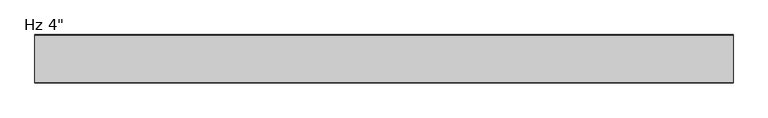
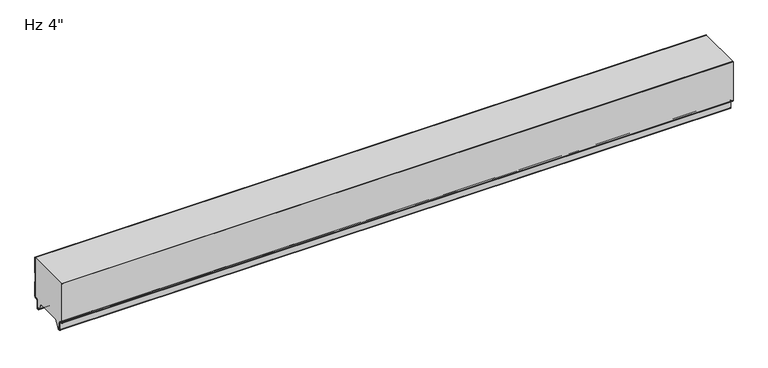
"""IFC4 building model written with IfcOpenShell, lengths in millimetres: plate geometry."""

from ifc_helpers import new_model, si_unit, frame, origin, place, context, project, spatial, polyline, circle_curve, source, transform, mapped, element, save
from ifc_brep_helpers import plane_surface, cylinder_surface, revolved_surface, advanced_brep


def plate_83f6242e(model_context):
    return source(origin(), model_context, "Body", "AdvancedBrep", [
        advanced_brep(
        [(-730.0, -1.0, 59.9218553), (-730.0, -1.0, 94.95), (-730.0, 0.0, 94.95), (-730.0, 0.0, 59.479416), (-730.0, -1.1911595, 58.4068912), (-730.0, -1.1911595, 39.5087751), (-730.0, 0.0, 38.4362503), (-730.0, 0.0, 5.8272193), (-730.0, -2.9772904, 2.8499526), (-730.0, -5.2691742, 2.8499526), (-730.0, -8.2464427, -0.1273159), (-730.0, -8.2464427, -15.7237419), (-730.0, -9.8343193, -17.3116185), (-730.0, -12.905868, -17.3116185), (-730.0, -14.4937445, -15.7237419), (-730.0, -14.4937445, -13.3687064), (-730.0, -13.4937445, -13.3687064), (-730.0, -13.4937445, -15.7237419), (-730.0, -12.905868, -16.3116185), (-730.0, -9.8343193, -16.3116185), (-730.0, -9.2464427, -15.7237419), (-730.0, -9.2464427, -0.1273159), (-730.0, -5.2691742, 3.8499526), (-730.0, -2.9772904, 3.8499526), (-730.0, -1.0000218, 5.82722), (-730.0, -1.0, 37.993811), (-730.0, -2.1911595, 39.0663358), (-730.0, -2.1911595, 58.8493305), (730.0, 0.0, 59.479416), (730.0, 0.0, 94.95), (730.0, -1.0, 94.95), (730.0, -1.0, 59.9218553), (730.0, -2.1911595, 58.8493305), (730.0, -2.1911595, 39.0663358), (730.0, -1.0, 37.993811), (730.0, -1.0, 5.82722), (730.0, -2.9772904, 3.8499526), (730.0, -5.2691742, 3.8499526), (730.0, -9.2464427, -0.1273159), (730.0, -9.2464427, -15.7237419), (730.0, -9.8343193, -16.3116185), (730.0, -12.905868, -16.3116185), (730.0, -13.4937445, -15.7237419), (730.0, -13.4937445, -13.3687064), (730.0, -14.4937445, -13.3687064), (730.0, -14.4937445, -15.7237419), (730.0, -12.905868, -17.3116185), (730.0, -9.8343193, -17.3116185), (730.0, -8.2464427, -15.7237419), (730.0, -8.2464427, -0.1273159), (730.0, -5.2691742, 2.8499526), (730.0, -2.9772904, 2.8499526), (730.0, -2.18e-05, 5.8272193), (730.0, 0.0, 38.4362503), (730.0, -1.1911595, 39.5087751), (730.0, -1.1911595, 58.4068912)],
        [
            (0, 1),
            (1, 2),
            (2, 3),
            (3, 4),
            (4, 5),
            (5, 6),
            (6, 7),
            (7, 8, circle_curve(frame((-730.0, -2.9772904, 5.8272211), z_axis=(-1.0, 0.0, 0.0), x_axis=(0.0, 1.0, 0.0)), 2.9772685)),
            (8, 9),
            (9, 10, circle_curve(frame((-730.0, -5.2691742, -0.1273159), z_axis=(1.0, 0.0, 0.0), x_axis=(0.0, 1.0, 0.0)), 2.9772685)),
            (10, 11),
            (11, 12, circle_curve(frame((-730.0, -9.8343193, -15.7237419), z_axis=(-1.0, 0.0, 0.0), x_axis=(0.0, 1.0, 0.0)), 1.5878765)),
            (12, 13),
            (13, 14, circle_curve(frame((-730.0, -12.905868, -15.7237419), z_axis=(-1.0, 0.0, 0.0), x_axis=(0.0, 1.0, 0.0)), 1.5878765)),
            (14, 15),
            (15, 16),
            (16, 17),
            (17, 18, circle_curve(frame((-730.0, -12.905868, -15.7237419), z_axis=(1.0, 0.0, 0.0), x_axis=(0.0, 1.0, 0.0)), 0.5878765)),
            (18, 19),
            (19, 20, circle_curve(frame((-730.0, -9.8343193, -15.7237419), z_axis=(1.0, 0.0, 0.0), x_axis=(0.0, 1.0, 0.0)), 0.5878765)),
            (20, 21),
            (21, 22, circle_curve(frame((-730.0, -5.2691742, -0.1273159), z_axis=(-1.0, 0.0, 0.0), x_axis=(0.0, 1.0, 0.0)), 3.9772685)),
            (22, 23),
            (23, 24, circle_curve(frame((-730.0, -2.9772904, 5.8272212), z_axis=(1.0, 0.0, 0.0), x_axis=(0.0, 1.0, 0.0)), 1.9772685)),
            (24, 25),
            (25, 26),
            (26, 27),
            (27, 0),
            (28, 29),
            (29, 30),
            (30, 31),
            (31, 32),
            (32, 33),
            (33, 34),
            (34, 35),
            (35, 36, circle_curve(frame((730.0, -2.9772904, 5.8272212), z_axis=(-1.0, 0.0, 0.0), x_axis=(0.0, 1.0, 0.0)), 1.9772685)),
            (36, 37),
            (37, 38, circle_curve(frame((730.0, -5.2691742, -0.1273159), z_axis=(1.0, 0.0, 0.0), x_axis=(0.0, 1.0, 0.0)), 3.9772685)),
            (38, 39),
            (39, 40, circle_curve(frame((730.0, -9.8343193, -15.7237419), z_axis=(-1.0, 0.0, 0.0), x_axis=(0.0, 1.0, 0.0)), 0.5878765)),
            (40, 41),
            (41, 42, circle_curve(frame((730.0, -12.905868, -15.7237419), z_axis=(-1.0, 0.0, 0.0), x_axis=(0.0, 1.0, 0.0)), 0.5878765)),
            (42, 43),
            (43, 44),
            (44, 45),
            (45, 46, circle_curve(frame((730.0, -12.905868, -15.7237419), z_axis=(1.0, 0.0, 0.0), x_axis=(0.0, 1.0, 0.0)), 1.5878765)),
            (46, 47),
            (47, 48, circle_curve(frame((730.0, -9.8343193, -15.7237419), z_axis=(1.0, 0.0, 0.0), x_axis=(0.0, 1.0, 0.0)), 1.5878765)),
            (48, 49),
            (49, 50, circle_curve(frame((730.0, -5.2691742, -0.1273159), z_axis=(-1.0, 0.0, 0.0), x_axis=(0.0, 1.0, 0.0)), 2.9772685)),
            (50, 51),
            (51, 52, circle_curve(frame((730.0, -2.9772904, 5.8272211), z_axis=(1.0, 0.0, 0.0), x_axis=(0.0, 1.0, 0.0)), 2.9772685)),
            (52, 53),
            (53, 54),
            (54, 55),
            (55, 28),
            (30, 1),
            (0, 31),
            (27, 32),
            (26, 33),
            (25, 34),
            (24, 35),
            (23, 36),
            (22, 37),
            (21, 38),
            (20, 39),
            (19, 40),
            (18, 41),
            (17, 42),
            (16, 43),
            (15, 44),
            (14, 45),
            (13, 46),
            (12, 47),
            (11, 48),
            (10, 49),
            (9, 50),
            (8, 51),
            (7, 52),
            (6, 53),
            (5, 54),
            (4, 55),
            (3, 28),
            (2, 29),
        ],
        [
            plane_surface(frame((-730.0, 0.0, 576.2625), z_axis=(-1.0, 0.0, 0.0), x_axis=(0.0, 1.0, 0.0))),
            plane_surface(frame((730.0, 0.0, 576.2625), z_axis=(1.0, 0.0, 0.0), x_axis=(0.0, 1.0, 0.0))),
            plane_surface(frame((-730.0, -1.0, 113.6164312), z_axis=(0.0, -1.0, 0.0), x_axis=(1.0, 0.0, 0.0))),
            plane_surface(frame((-730.0, -1.0, 59.9218553), z_axis=(0.0, -0.6691306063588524, 0.7431448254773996), x_axis=(1.0, 0.0, 0.0))),
            plane_surface(frame((-730.0, -2.1911595, 58.8493305), z_axis=(0.0, -1.0, 0.0), x_axis=(1.0, 0.0, 0.0))),
            plane_surface(frame((-730.0, -2.1911595, 39.0663358), z_axis=(0.0, -0.6691306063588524, -0.7431448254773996), x_axis=(1.0, 0.0, 0.0))),
            plane_surface(frame((-730.0, -1.0, 37.993811), z_axis=(0.0, -1.0, 0.0), x_axis=(1.0, 0.0, 0.0))),
            revolved_surface(polyline([(730.0, -1.0000218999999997, 5.8272212), (-730.0, -1.0000218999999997, 5.8272212)]), (-730.0, -2.9772904, 5.8272212), (1.0, 0.0, 0.0)),
            plane_surface(frame((-730.0, -2.9772904, 3.8499526), z_axis=(0.0, 0.0, 1.0), x_axis=(1.0, 0.0, 0.0))),
            cylinder_surface(frame((-730.0, -5.2691742, -0.1273159), z_axis=(-1.0, 0.0, 0.0), x_axis=(0.0, 1.0, 0.0)), 3.9772685),
            plane_surface(frame((-730.0, -9.2464427, -0.1273159), z_axis=(0.0, -1.0, 0.0), x_axis=(1.0, 0.0, 0.0))),
            revolved_surface(polyline([(730.0, -9.2464428, -15.7237419), (-730.0, -9.2464428, -15.7237419)]), (-730.0, -9.8343193, -15.7237419), (1.0, 0.0, 0.0)),
            plane_surface(frame((-730.0, -9.8343193, -16.3116185), z_axis=(0.0, 0.0, 1.0), x_axis=(1.0, 0.0, 0.0))),
            revolved_surface(polyline([(730.0, -12.3179915, -15.7237419), (-730.0, -12.3179915, -15.7237419)]), (-730.0, -12.905868, -15.7237419), (1.0, 0.0, 0.0)),
            plane_surface(frame((-730.0, -13.4937445, -15.7237419), z_axis=(0.0, 1.0, 0.0), x_axis=(1.0, 0.0, 0.0))),
            plane_surface(frame((-730.0, -13.4937445, -13.3687064), z_axis=(0.0, 0.0, 1.0), x_axis=(1.0, 0.0, 0.0))),
            plane_surface(frame((-730.0, -14.4937445, -13.3687064), z_axis=(0.0, -1.0, 0.0), x_axis=(1.0, 0.0, 0.0))),
            cylinder_surface(frame((-730.0, -12.905868, -15.7237419), z_axis=(-1.0, 0.0, 0.0), x_axis=(0.0, 1.0, 0.0)), 1.5878765),
            plane_surface(frame((-730.0, -12.905868, -17.3116185), z_axis=(0.0, 0.0, -1.0), x_axis=(1.0, 0.0, 0.0))),
            cylinder_surface(frame((-730.0, -9.8343193, -15.7237419), z_axis=(-1.0, 0.0, 0.0), x_axis=(0.0, 1.0, 0.0)), 1.5878765),
            plane_surface(frame((-730.0, -8.2464427, -15.7237419), z_axis=(0.0, 1.0, 0.0), x_axis=(1.0, 0.0, 0.0))),
            revolved_surface(polyline([(730.0, -2.2919057, -0.1273159), (-730.0, -2.2919057, -0.1273159)]), (-730.0, -5.2691742, -0.1273159), (1.0, 0.0, 0.0)),
            plane_surface(frame((-730.0, -5.2691742, 2.8499526), z_axis=(0.0, 0.0, -1.0), x_axis=(1.0, 0.0, 0.0))),
            cylinder_surface(frame((-730.0, -2.9772904, 5.8272211), z_axis=(-1.0, 0.0, 0.0), x_axis=(0.0, 1.0, 0.0)), 2.9772685),
            plane_surface(frame((-730.0, 0.0, 5.8272193), z_axis=(0.0, 1.0, 0.0), x_axis=(1.0, 0.0, 0.0))),
            plane_surface(frame((-730.0, 0.0, 38.4362503), z_axis=(0.0, 0.6691306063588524, 0.7431448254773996), x_axis=(1.0, 0.0, 0.0))),
            plane_surface(frame((-730.0, -1.1911595, 39.5087751), z_axis=(0.0, 1.0, 0.0), x_axis=(1.0, 0.0, 0.0))),
            plane_surface(frame((-730.0, -1.1911595, 58.4068912), z_axis=(0.0, 0.6691306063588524, -0.7431448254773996), x_axis=(1.0, 0.0, 0.0))),
            plane_surface(frame((-730.0, 0.0, 59.479416), z_axis=(0.0, 1.0, 0.0), x_axis=(1.0, 0.0, 0.0))),
            plane_surface(frame((730.0, 10.0, 94.95), z_axis=(0.0, 0.0, 1.0), x_axis=(-1.0, 0.0, 0.0))),
        ],
        [
            (0, [[1, 2, 3, 4, 5, 6, 7, 8, 9, 10, 11, 12, 13, 14, 15, 16, 17, 18, 19, 20, 21, 22, 23, 24, 25, 26, 27, 28]]),
            (1, [[29, 30, 31, 32, 33, 34, 35, 36, 37, 38, 39, 40, 41, 42, 43, 44, 45, 46, 47, 48, 49, 50, 51, 52, 53, 54, 55, 56]]),
            (2, [[-31, 57, -1, 58]]),
            (3, [[59, -32, -58, -28]]),
            (4, [[60, -33, -59, -27]]),
            (5, [[61, -34, -60, -26]]),
            (6, [[62, -35, -61, -25]]),
            (7, [[63, -36, -62, -24]]),
            (8, [[64, -37, -63, -23]]),
            (9, [[65, -38, -64, -22]]),
            (10, [[66, -39, -65, -21]]),
            (11, [[67, -40, -66, -20]]),
            (12, [[68, -41, -67, -19]]),
            (13, [[69, -42, -68, -18]]),
            (14, [[70, -43, -69, -17]]),
            (15, [[71, -44, -70, -16]]),
            (16, [[72, -45, -71, -15]]),
            (17, [[73, -46, -72, -14]]),
            (18, [[74, -47, -73, -13]]),
            (19, [[75, -48, -74, -12]]),
            (20, [[76, -49, -75, -11]]),
            (21, [[77, -50, -76, -10]]),
            (22, [[78, -51, -77, -9]]),
            (23, [[79, -52, -78, -8]]),
            (24, [[80, -53, -79, -7]]),
            (25, [[81, -54, -80, -6]]),
            (26, [[82, -55, -81, -5]]),
            (27, [[83, -56, -82, -4]]),
            (28, [[-3, 84, -29, -83]]),
            (29, [[-57, -30, -84, -2]]),
        ],
    ),
        advanced_brep(
        [(-730.0, -98.6223811, 3.8501063), (-730.0, -96.3308685, 3.8501063), (-730.0, -92.3535232, -0.1272391), (-730.0, -92.3535232, -15.7237514), (-730.0, -91.765666, -16.3116086), (-730.0, -88.6941346, -16.3116086), (-730.0, -88.1062635, -15.7237374), (-730.0, -88.1062635, -13.3687064), (-730.0, -87.1062599, -13.3687064), (-730.0, -87.1062599, -15.7237419), (-730.0, -88.6941364, -17.3116185), (-730.0, -91.7656851, -17.3116185), (-730.0, -93.3535616, -15.7237419), (-730.0, -93.3535616, -0.1273159), (-730.0, -96.3308302, 2.8499526), (-730.0, -98.622714, 2.8499526), (-730.0, -101.5999825, 5.8272211), (-730.0, -101.6, 94.95), (-730.0, -100.5992912, 94.95), (-730.0, -100.5992912, 5.8270163), (730.0, -98.6223811, 3.8501063), (730.0, -100.5992912, 5.8270163), (730.0, -100.5992912, 94.95), (730.0, -101.6, 94.95), (730.0, -101.6, 5.8272211), (730.0, -98.622714, 2.8499526), (730.0, -96.3308302, 2.8499526), (730.0, -93.3535616, -0.1273159), (730.0, -93.3535616, -15.7237419), (730.0, -91.7656851, -17.3116185), (730.0, -88.6941364, -17.3116185), (730.0, -87.1062599, -15.7237419), (730.0, -87.1062599, -13.3687064), (730.0, -88.1062635, -13.3687064), (730.0, -88.1062635, -15.7237374), (730.0, -88.6941346, -16.3116086), (730.0, -91.765666, -16.3116086), (730.0, -92.3535232, -15.7237514), (730.0, -92.3535232, -0.1272391), (730.0, -96.3308685, 3.8501063)],
        [
            (0, 1),
            (1, 2, circle_curve(frame((-730.0, -96.3308685, -0.1272391), z_axis=(-1.0, 0.0, 0.0), x_axis=(0.0, 0.0, -1.0)), 3.9773454)),
            (2, 3),
            (3, 4, circle_curve(frame((-730.0, -91.765666, -15.7237514), z_axis=(1.0, 0.0, 0.0), x_axis=(0.0, 0.0, -1.0)), 0.5878572)),
            (4, 5),
            (5, 6, circle_curve(frame((-730.0, -88.6941346, -15.7237374), z_axis=(1.0, 0.0, 0.0), x_axis=(0.0, 0.0, -1.0)), 0.5878711)),
            (6, 7),
            (7, 8),
            (8, 9),
            (9, 10, circle_curve(frame((-730.0, -88.6941364, -15.7237419), z_axis=(-1.0, 0.0, 0.0), x_axis=(0.0, 0.0, -1.0)), 1.5878765)),
            (10, 11),
            (11, 12, circle_curve(frame((-730.0, -91.7656851, -15.7237419), z_axis=(-1.0, 0.0, 0.0), x_axis=(0.0, 0.0, -1.0)), 1.5878765)),
            (12, 13),
            (13, 14, circle_curve(frame((-730.0, -96.3308302, -0.1273159), z_axis=(1.0, 0.0, 0.0), x_axis=(0.0, 0.0, -1.0)), 2.9772685)),
            (14, 15),
            (15, 16, circle_curve(frame((-730.0, -98.622714, 5.8272211), z_axis=(-1.0, 0.0, 0.0), x_axis=(0.0, 0.0, -1.0)), 2.9772685)),
            (16, 17),
            (17, 18),
            (18, 19),
            (19, 0, circle_curve(frame((-730.0, -98.6223811, 5.8270163), z_axis=(1.0, 0.0, 0.0), x_axis=(0.0, 0.0, -1.0)), 1.9769101)),
            (20, 21, circle_curve(frame((730.0, -98.6223811, 5.8270163), z_axis=(-1.0, 0.0, 0.0), x_axis=(0.0, 0.0, -1.0)), 1.9769101)),
            (21, 22),
            (22, 23),
            (23, 24),
            (24, 25, circle_curve(frame((730.0, -98.622714, 5.8272211), z_axis=(1.0, 0.0, 0.0), x_axis=(0.0, 0.0, -1.0)), 2.9772685)),
            (25, 26),
            (26, 27, circle_curve(frame((730.0, -96.3308302, -0.1273159), z_axis=(-1.0, 0.0, 0.0), x_axis=(0.0, 0.0, -1.0)), 2.9772685)),
            (27, 28),
            (28, 29, circle_curve(frame((730.0, -91.7656851, -15.7237419), z_axis=(1.0, 0.0, 0.0), x_axis=(0.0, 0.0, -1.0)), 1.5878765)),
            (29, 30),
            (30, 31, circle_curve(frame((730.0, -88.6941364, -15.7237419), z_axis=(1.0, 0.0, 0.0), x_axis=(0.0, 0.0, -1.0)), 1.5878765)),
            (31, 32),
            (32, 33),
            (33, 34),
            (34, 35, circle_curve(frame((730.0, -88.6941346, -15.7237374), z_axis=(-1.0, 0.0, 0.0), x_axis=(0.0, 0.0, -1.0)), 0.5878711)),
            (35, 36),
            (36, 37, circle_curve(frame((730.0, -91.765666, -15.7237514), z_axis=(-1.0, 0.0, 0.0), x_axis=(0.0, 0.0, -1.0)), 0.5878572)),
            (37, 38),
            (38, 39, circle_curve(frame((730.0, -96.3308685, -0.1272391), z_axis=(1.0, 0.0, 0.0), x_axis=(0.0, 0.0, -1.0)), 3.9773454)),
            (39, 20),
            (17, 23),
            (22, 18),
            (19, 21),
            (20, 0),
            (16, 24),
            (15, 25),
            (14, 26),
            (13, 27),
            (12, 28),
            (11, 29),
            (10, 30),
            (9, 31),
            (8, 32),
            (7, 33),
            (6, 34),
            (5, 35),
            (4, 36),
            (3, 37),
            (2, 38),
            (1, 39),
        ],
        [
            plane_surface(frame((-730.0, -101.6, 576.2625), z_axis=(-1.0, 0.0, 0.0), x_axis=(0.0, -1.0, 0.0))),
            plane_surface(frame((730.0, -101.6, 576.2625), z_axis=(1.0, 0.0, 0.0), x_axis=(0.0, -1.0, 0.0))),
            plane_surface(frame((730.0, 10.0, 94.95), z_axis=(0.0, 0.0, 1.0), x_axis=(-1.0, 0.0, 0.0))),
            revolved_surface(polyline([(730.0, -98.6223811, 3.8501062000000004), (-730.0, -98.6223811, 3.8501062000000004)]), (-730.0, -98.6223811, 5.8270163), (1.0, 0.0, 0.0)),
            plane_surface(frame((-730.0, -100.5992912, 5.8270163), z_axis=(0.0, 1.0, 0.0), x_axis=(1.0, 0.0, 0.0))),
            plane_surface(frame((-730.0, -101.6, 1150.8100652), z_axis=(0.0, -1.0, 0.0), x_axis=(1.0, 0.0, 0.0))),
            cylinder_surface(frame((-730.0, -98.622714, 5.8272211), z_axis=(-1.0, 0.0, 0.0), x_axis=(0.0, 0.0, -1.0)), 2.9772685),
            plane_surface(frame((-730.0, -98.622714, 2.8499526), z_axis=(0.0, 0.0, -1.0), x_axis=(1.0, 0.0, 0.0))),
            revolved_surface(polyline([(730.0, -96.3308302, -3.1045844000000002), (-730.0, -96.3308302, -3.1045844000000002)]), (-730.0, -96.3308302, -0.1273159), (1.0, 0.0, 0.0)),
            plane_surface(frame((-730.0, -93.3535616, -0.1273159), z_axis=(0.0, -1.0, 0.0), x_axis=(1.0, 0.0, 0.0))),
            cylinder_surface(frame((-730.0, -91.7656851, -15.7237419), z_axis=(-1.0, 0.0, 0.0), x_axis=(0.0, 0.0, -1.0)), 1.5878765),
            plane_surface(frame((-730.0, -91.7656851, -17.3116185), z_axis=(0.0, 0.0, -1.0), x_axis=(1.0, 0.0, 0.0))),
            cylinder_surface(frame((-730.0, -88.6941364, -15.7237419), z_axis=(-1.0, 0.0, 0.0), x_axis=(0.0, 0.0, -1.0)), 1.5878765),
            plane_surface(frame((-730.0, -87.1062599, -15.7237419), z_axis=(0.0, 1.0, 0.0), x_axis=(1.0, 0.0, 0.0))),
            plane_surface(frame((-730.0, -87.1062599, -13.3687064), z_axis=(0.0, 0.0, 1.0), x_axis=(1.0, 0.0, 0.0))),
            plane_surface(frame((-730.0, -88.1062635, -13.3687064), z_axis=(0.0, -1.0, 0.0), x_axis=(1.0, 0.0, 0.0))),
            revolved_surface(polyline([(730.0, -88.6941346, -16.3116085), (-730.0, -88.6941346, -16.3116085)]), (-730.0, -88.6941346, -15.7237374), (1.0, 0.0, 0.0)),
            plane_surface(frame((-730.0, -88.6941346, -16.3116086), z_axis=(0.0, 0.0, 1.0), x_axis=(1.0, 0.0, 0.0))),
            revolved_surface(polyline([(730.0, -91.765666, -16.3116086), (-730.0, -91.765666, -16.3116086)]), (-730.0, -91.765666, -15.7237514), (1.0, 0.0, 0.0)),
            plane_surface(frame((-730.0, -92.3535232, -15.7237514), z_axis=(0.0, 1.0, 0.0), x_axis=(1.0, 0.0, 0.0))),
            cylinder_surface(frame((-730.0, -96.3308685, -0.1272391), z_axis=(-1.0, 0.0, 0.0), x_axis=(0.0, 0.0, -1.0)), 3.9773454),
            plane_surface(frame((-730.0, -96.3308685, 3.8501063), z_axis=(0.0, 0.0, 1.0), x_axis=(1.0, 0.0, 0.0))),
        ],
        [
            (0, [[1, 2, 3, 4, 5, 6, 7, 8, 9, 10, 11, 12, 13, 14, 15, 16, 17, 18, 19, 20]]),
            (1, [[21, 22, 23, 24, 25, 26, 27, 28, 29, 30, 31, 32, 33, 34, 35, 36, 37, 38, 39, 40]]),
            (2, [[41, -23, 42, -18]]),
            (3, [[43, -21, 44, -20]]),
            (4, [[-19, -42, -22, -43]]),
            (5, [[-24, -41, -17, 45]]),
            (6, [[46, -25, -45, -16]]),
            (7, [[47, -26, -46, -15]]),
            (8, [[48, -27, -47, -14]]),
            (9, [[49, -28, -48, -13]]),
            (10, [[50, -29, -49, -12]]),
            (11, [[51, -30, -50, -11]]),
            (12, [[52, -31, -51, -10]]),
            (13, [[53, -32, -52, -9]]),
            (14, [[54, -33, -53, -8]]),
            (15, [[55, -34, -54, -7]]),
            (16, [[56, -35, -55, -6]]),
            (17, [[57, -36, -56, -5]]),
            (18, [[58, -37, -57, -4]]),
            (19, [[59, -38, -58, -3]]),
            (20, [[60, -39, -59, -2]]),
            (21, [[-44, -40, -60, -1]]),
        ],
    ),
        advanced_brep(
        [(-730.0, -98.6227194, 3.8499499), (-730.0, -100.5999935, 5.8272239), (-730.0, -100.6, 94.95), (-730.0, -1.0, 94.95), (-730.0, -1.0, 59.9218553), (-730.0, -2.1911595, 58.8493305), (-730.0, -2.1911595, 39.0663358), (-730.0, -1.0000109, 37.993811), (-730.0, -1.0000109, 5.8272239), (-730.0, -2.9772849, 3.8499499), (-730.0, -5.2691749, 3.8499499), (-730.0, -9.246442, -0.1273173), (-730.0, -9.246442, -15.7237417), (-730.0, -9.8343189, -16.3116186), (-730.0, -12.9058679, -16.3116186), (-730.0, -13.4937446, -15.723742), (-730.0, -13.4937446, -13.3687064), (-730.0, -14.4937446, -13.3687064), (-730.0, -14.4937446, -15.6582851), (-730.0, -23.7509179, 0.0), (-730.0, -77.8490865, 0.0), (-730.0, -87.1062598, -15.6582851), (-730.0, -87.1062598, -13.3687064), (-730.0, -88.1062598, -13.3687064), (-730.0, -88.1062598, -15.723742), (-730.0, -88.6941365, -16.3116186), (-730.0, -91.7656854, -16.3116186), (-730.0, -92.3535623, -15.7237417), (-730.0, -92.3535623, -0.1273173), (-730.0, -96.3308295, 3.8499499), (730.0, -98.6227194, 3.8499499), (730.0, -96.3308295, 3.8499499), (730.0, -92.3535623, -0.1273173), (730.0, -92.3535623, -15.7237417), (730.0, -91.7656854, -16.3116186), (730.0, -88.6941365, -16.3116186), (730.0, -88.1062598, -15.723742), (730.0, -88.1062598, -13.3687064), (730.0, -87.1062598, -13.3687064), (730.0, -87.1062598, -15.6582851), (730.0, -77.8490865, 0.0), (730.0, -23.7509179, 0.0), (730.0, -14.4937446, -15.6582851), (730.0, -14.4937446, -13.3687064), (730.0, -13.4937446, -13.3687064), (730.0, -13.4937446, -15.723742), (730.0, -12.9058679, -16.3116186), (730.0, -9.8343189, -16.3116186), (730.0, -9.246442, -15.7237417), (730.0, -9.246442, -0.1273173), (730.0, -5.2691749, 3.8499499), (730.0, -2.9772849, 3.8499499), (730.0, -1.0000109, 5.8272239), (730.0, -1.0000109, 37.993811), (730.0, -2.1911595, 39.0663358), (730.0, -2.1911595, 58.8493305), (730.0, -1.0, 59.9218553), (730.0, -1.0, 94.95), (730.0, -100.6, 94.95), (730.0, -100.6, 5.8272239)],
        [
            (0, 1, circle_curve(frame((-730.0, -98.6227194, 5.8272239), z_axis=(-1.0, 0.0, 0.0), x_axis=(0.0, 0.0, -1.0)), 1.977274)),
            (1, 2),
            (2, 3),
            (3, 4),
            (4, 5),
            (5, 6),
            (6, 7),
            (7, 8),
            (8, 9, circle_curve(frame((-730.0, -2.9772849, 5.8272239), z_axis=(-1.0, 0.0, 0.0), x_axis=(0.0, 1.0, 0.0)), 1.977274)),
            (9, 10),
            (10, 11, circle_curve(frame((-730.0, -5.2691749, -0.1273173), z_axis=(1.0, 0.0, 0.0), x_axis=(0.0, 1.0, 0.0)), 3.9772671)),
            (11, 12),
            (12, 13, circle_curve(frame((-730.0, -9.8343189, -15.7237417), z_axis=(-1.0, 0.0, 0.0), x_axis=(0.0, 1.0, 0.0)), 0.5878769)),
            (13, 14),
            (14, 15, circle_curve(frame((-730.0, -12.9058679, -15.723742), z_axis=(-1.0, 0.0, 0.0), x_axis=(0.0, 1.0, 0.0)), 0.5878766)),
            (15, 16),
            (16, 17),
            (17, 18),
            (18, 19),
            (19, 20),
            (20, 21),
            (21, 22),
            (22, 23),
            (23, 24),
            (24, 25, circle_curve(frame((-730.0, -88.6941365, -15.723742), z_axis=(-1.0, 0.0, 0.0), x_axis=(0.0, 0.0, -1.0)), 0.5878766)),
            (25, 26),
            (26, 27, circle_curve(frame((-730.0, -91.7656854, -15.7237417), z_axis=(-1.0, 0.0, 0.0), x_axis=(0.0, 0.0, -1.0)), 0.5878769)),
            (27, 28),
            (28, 29, circle_curve(frame((-730.0, -96.3308295, -0.1273173), z_axis=(1.0, 0.0, 0.0), x_axis=(0.0, 0.0, -1.0)), 3.9772671)),
            (29, 0),
            (30, 31),
            (31, 32, circle_curve(frame((730.0, -96.3308295, -0.1273173), z_axis=(-1.0, 0.0, 0.0), x_axis=(0.0, 0.0, -1.0)), 3.9772671)),
            (32, 33),
            (33, 34, circle_curve(frame((730.0, -91.7656854, -15.7237417), z_axis=(1.0, 0.0, 0.0), x_axis=(0.0, 0.0, -1.0)), 0.5878769)),
            (34, 35),
            (35, 36, circle_curve(frame((730.0, -88.6941365, -15.723742), z_axis=(1.0, 0.0, 0.0), x_axis=(0.0, 0.0, -1.0)), 0.5878766)),
            (36, 37),
            (37, 38),
            (38, 39),
            (39, 40),
            (40, 41),
            (41, 42),
            (42, 43),
            (43, 44),
            (44, 45),
            (45, 46, circle_curve(frame((730.0, -12.9058679, -15.723742), z_axis=(1.0, 0.0, 0.0), x_axis=(0.0, 1.0, 0.0)), 0.5878766)),
            (46, 47),
            (47, 48, circle_curve(frame((730.0, -9.8343189, -15.7237417), z_axis=(1.0, 0.0, 0.0), x_axis=(0.0, 1.0, 0.0)), 0.5878769)),
            (48, 49),
            (49, 50, circle_curve(frame((730.0, -5.2691749, -0.1273173), z_axis=(-1.0, 0.0, 0.0), x_axis=(0.0, 1.0, 0.0)), 3.9772671)),
            (50, 51),
            (51, 52, circle_curve(frame((730.0, -2.9772849, 5.8272239), z_axis=(1.0, 0.0, 0.0), x_axis=(0.0, 1.0, 0.0)), 1.977274)),
            (52, 53),
            (53, 54),
            (54, 55),
            (55, 56),
            (56, 57),
            (57, 58),
            (58, 59),
            (59, 30, circle_curve(frame((730.0, -98.6227194, 5.8272239), z_axis=(1.0, 0.0, 0.0), x_axis=(0.0, 0.0, -1.0)), 1.977274)),
            (18, 42),
            (41, 19),
            (17, 43),
            (16, 44),
            (15, 45),
            (14, 46),
            (13, 47),
            (12, 48),
            (11, 49),
            (10, 50),
            (9, 51),
            (8, 52),
            (7, 53),
            (6, 54),
            (5, 55),
            (4, 56),
            (3, 57),
            (40, 20),
            (2, 58),
            (29, 31),
            (30, 0),
            (28, 32),
            (27, 33),
            (26, 34),
            (25, 35),
            (24, 36),
            (23, 37),
            (22, 38),
            (21, 39),
            (1, 59),
        ],
        [
            plane_surface(frame((-730.0, -100.6, 576.2625), z_axis=(-1.0, 0.0, 0.0), x_axis=(0.0, -1.0, 0.0))),
            plane_surface(frame((730.0, -100.6, 576.2625), z_axis=(1.0, 0.0, 0.0), x_axis=(0.0, -1.0, 0.0))),
            plane_surface(frame((-730.0, -23.7509179, 0.0), z_axis=(0.0, -0.8608169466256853, -0.5089147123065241), x_axis=(1.0, 0.0, 0.0))),
            plane_surface(frame((-730.0, -14.4937446, -15.6582851), z_axis=(0.0, 1.0, 0.0), x_axis=(1.0, 0.0, 0.0))),
            plane_surface(frame((-730.0, -14.4937446, -13.3687064), z_axis=(0.0, 0.0, -1.0), x_axis=(1.0, 0.0, 0.0))),
            plane_surface(frame((-730.0, -13.4937446, -13.3687064), z_axis=(0.0, -1.0, 0.0), x_axis=(1.0, 0.0, 0.0))),
            cylinder_surface(frame((-730.0, -12.9058679, -15.723742), z_axis=(-1.0, 0.0, 0.0), x_axis=(0.0, 1.0, 0.0)), 0.5878766),
            plane_surface(frame((-730.0, -12.9058679, -16.3116186), z_axis=(0.0, 0.0, -1.0), x_axis=(1.0, 0.0, 0.0))),
            cylinder_surface(frame((-730.0, -9.8343189, -15.7237417), z_axis=(-1.0, 0.0, 0.0), x_axis=(0.0, 1.0, 0.0)), 0.5878769),
            plane_surface(frame((-730.0, -9.246442, -15.7237417), z_axis=(0.0, 1.0, 0.0), x_axis=(1.0, 0.0, 0.0))),
            revolved_surface(polyline([(730.0, -1.2919078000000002, -0.1273173), (-730.0, -1.2919078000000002, -0.1273173)]), (-730.0, -5.2691749, -0.1273173), (1.0, 0.0, 0.0)),
            plane_surface(frame((-730.0, -5.2691749, 3.8499499), z_axis=(0.0, 0.0, -1.0), x_axis=(1.0, 0.0, 0.0))),
            cylinder_surface(frame((-730.0, -2.9772849, 5.8272239), z_axis=(-1.0, 0.0, 0.0), x_axis=(0.0, 1.0, 0.0)), 1.977274),
            plane_surface(frame((-730.0, -1.0000109, 5.8272239), z_axis=(0.0, 1.0, 0.0), x_axis=(1.0, 0.0, 0.0))),
            plane_surface(frame((-730.0, -1.0000109, 37.993811), z_axis=(0.0, 0.6691339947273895, 0.7431417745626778), x_axis=(1.0, 0.0, 0.0))),
            plane_surface(frame((-730.0, -2.1911595, 39.0663358), z_axis=(0.0, 1.0, 0.0), x_axis=(1.0, 0.0, 0.0))),
            plane_surface(frame((-730.0, -2.1911595, 58.8493305), z_axis=(0.0, 0.6691306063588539, -0.7431448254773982), x_axis=(1.0, 0.0, 0.0))),
            plane_surface(frame((-730.0, -1.0, 59.9218553), z_axis=(0.0, 1.0, 0.0), x_axis=(1.0, 0.0, 0.0))),
            plane_surface(frame((-730.0, -77.8490865, 0.0), z_axis=(0.0, 0.0, -1.0), x_axis=(1.0, 0.0, 0.0))),
            plane_surface(frame((730.0, 10.0, 94.95), z_axis=(0.0, 0.0, 1.0), x_axis=(-1.0, 0.0, 0.0))),
            plane_surface(frame((-730.0, -98.6227194, 3.8499499), z_axis=(0.0, 0.0, -1.0), x_axis=(1.0, 0.0, 0.0))),
            revolved_surface(polyline([(730.0, -96.3308295, -4.1045844), (-730.0, -96.3308295, -4.1045844)]), (-730.0, -96.3308295, -0.1273173), (1.0, 0.0, 0.0)),
            plane_surface(frame((-730.0, -92.3535623, -0.1273173), z_axis=(0.0, -1.0, 0.0), x_axis=(1.0, 0.0, 0.0))),
            cylinder_surface(frame((-730.0, -91.7656854, -15.7237417), z_axis=(-1.0, 0.0, 0.0), x_axis=(0.0, 0.0, -1.0)), 0.5878769),
            plane_surface(frame((-730.0, -91.7656854, -16.3116186), z_axis=(0.0, 0.0, -1.0), x_axis=(1.0, 0.0, 0.0))),
            cylinder_surface(frame((-730.0, -88.6941365, -15.723742), z_axis=(-1.0, 0.0, 0.0), x_axis=(0.0, 0.0, -1.0)), 0.5878766),
            plane_surface(frame((-730.0, -88.1062598, -15.723742), z_axis=(0.0, 1.0, 0.0), x_axis=(1.0, 0.0, 0.0))),
            plane_surface(frame((-730.0, -88.1062598, -13.3687064), z_axis=(0.0, 0.0, -1.0), x_axis=(1.0, 0.0, 0.0))),
            plane_surface(frame((-730.0, -87.1062598, -13.3687064), z_axis=(0.0, -1.0, 0.0), x_axis=(1.0, 0.0, 0.0))),
            plane_surface(frame((-730.0, -87.1062598, -15.6582851), z_axis=(0.0, 0.8608169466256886, -0.5089147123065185), x_axis=(1.0, 0.0, 0.0))),
            plane_surface(frame((-730.0, -100.6, 1150.8100652), z_axis=(0.0, -1.0, 0.0), x_axis=(1.0, 0.0, 0.0))),
            cylinder_surface(frame((-730.0, -98.6227194, 5.8272239), z_axis=(-1.0, 0.0, 0.0), x_axis=(0.0, 0.0, -1.0)), 1.977274),
        ],
        [
            (0, [[1, 2, 3, 4, 5, 6, 7, 8, 9, 10, 11, 12, 13, 14, 15, 16, 17, 18, 19, 20, 21, 22, 23, 24, 25, 26, 27, 28, 29, 30]]),
            (1, [[31, 32, 33, 34, 35, 36, 37, 38, 39, 40, 41, 42, 43, 44, 45, 46, 47, 48, 49, 50, 51, 52, 53, 54, 55, 56, 57, 58, 59, 60]]),
            (2, [[61, -42, 62, -19]]),
            (3, [[63, -43, -61, -18]]),
            (4, [[64, -44, -63, -17]]),
            (5, [[65, -45, -64, -16]]),
            (6, [[66, -46, -65, -15]]),
            (7, [[67, -47, -66, -14]]),
            (8, [[68, -48, -67, -13]]),
            (9, [[69, -49, -68, -12]]),
            (10, [[70, -50, -69, -11]]),
            (11, [[71, -51, -70, -10]]),
            (12, [[72, -52, -71, -9]]),
            (13, [[73, -53, -72, -8]]),
            (14, [[74, -54, -73, -7]]),
            (15, [[75, -55, -74, -6]]),
            (16, [[76, -56, -75, -5]]),
            (17, [[-4, 77, -57, -76]]),
            (18, [[78, -20, -62, -41]]),
            (19, [[79, -58, -77, -3]]),
            (20, [[80, -31, 81, -30]]),
            (21, [[82, -32, -80, -29]]),
            (22, [[83, -33, -82, -28]]),
            (23, [[84, -34, -83, -27]]),
            (24, [[85, -35, -84, -26]]),
            (25, [[86, -36, -85, -25]]),
            (26, [[87, -37, -86, -24]]),
            (27, [[88, -38, -87, -23]]),
            (28, [[89, -39, -88, -22]]),
            (29, [[-78, -40, -89, -21]]),
            (30, [[-59, -79, -2, 90]]),
            (31, [[-81, -60, -90, -1]]),
        ],
    ),
    ])


if __name__ == "__main__":
    model = new_model("IFC4")
    model_context = context("Model", 3, world=origin())
    ifc_project = project(units=[si_unit("LENGTHUNIT", "METRE", prefix="MILLI")], contexts=[model_context])
    site = spatial("IfcSite", under=ifc_project)
    building = spatial("IfcBuilding", under=site)
    placement = place(None, origin())
    plate_shape = plate_83f6242e(model_context)
    element("IfcPlate", 1, ObjectType="KIP-SLI-FLI-R19-CP-Hz-FL_SL : Hz 4\"", at=placement, inside=building, context=model_context, shape_type="MappedRepresentation", body=[
        mapped(plate_shape, transform((0.0, 0.0, 0.0), x_axis=(1.0, 0.0, 0.0), y_axis=(0.0, 1.0, 0.0), z_axis=(0.0, 0.0, 1.0))),
    ])
    save(model, "model.ifc")
